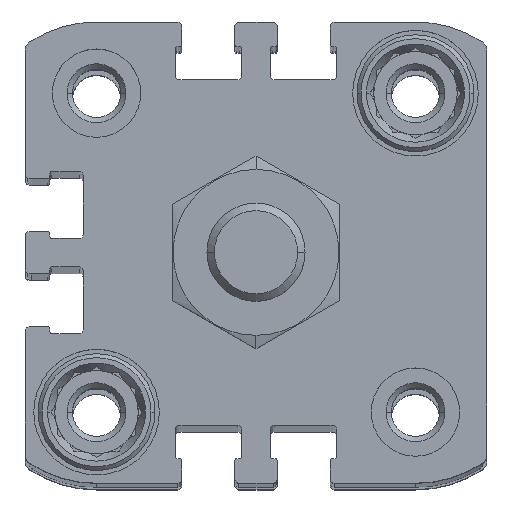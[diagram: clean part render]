
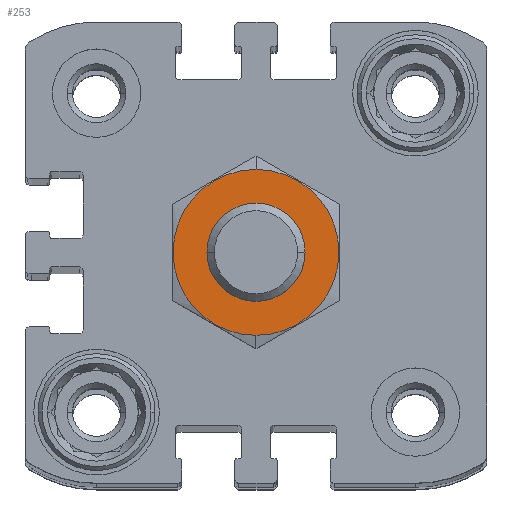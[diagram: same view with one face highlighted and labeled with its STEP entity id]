
A CAD part, top view. The second image highlights one B-rep face of the part: STEP entity #253.
In plain terms, the highlighted planar face has unit normal (0, 0, 1) as drawn and (0, 1, 0) by its records, which use the part's own axes.
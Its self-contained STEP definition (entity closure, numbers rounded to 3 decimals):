
#208 = DIRECTION ( 'NONE',  ( 0., 1., 0. ) ) ;
#221 = DIRECTION ( 'NONE',  ( 0., -1., 0. ) ) ;
#253 = ADVANCED_FACE ( 'NONE', ( #2506, #9247 ), #3930, .F. ) ;
#486 = ORIENTED_EDGE ( 'NONE', *, *, #1875, .F. ) ;
#538 = VERTEX_POINT ( 'NONE', #5395 ) ;
#608 = CARTESIAN_POINT ( 'NONE',  ( 0., 0., 0. ) ) ;
#1314 = VERTEX_POINT ( 'NONE', #15508 ) ;
#1531 = EDGE_LOOP ( 'NONE', ( #486, #5705 ) ) ;
#1756 = CARTESIAN_POINT ( 'NONE',  ( 0., 0., 0. ) ) ;
#1875 = EDGE_CURVE ( 'NONE', #7596, #1314, #12689, .T. ) ;
#2506 = FACE_BOUND ( 'NONE', #11129, .T. ) ;
#2579 = CIRCLE ( 'NONE', #14699, 8.45 ) ;
#2859 = CARTESIAN_POINT ( 'NONE',  ( 0., 0., 0. ) ) ;
#3033 = DIRECTION ( 'NONE',  ( 0., 0., -1. ) ) ;
#3135 = AXIS2_PLACEMENT_3D ( 'NONE', #7857, #208, #9137 ) ;
#3229 = CARTESIAN_POINT ( 'NONE',  ( 0., 0., -8.45 ) ) ;
#3486 = VERTEX_POINT ( 'NONE', #7382 ) ;
#3890 = AXIS2_PLACEMENT_3D ( 'NONE', #4691, #13443, #5934 ) ;
#3930 = PLANE ( 'NONE',  #4543 ) ;
#4132 = DIRECTION ( 'NONE',  ( 0., 0., 1. ) ) ;
#4543 = AXIS2_PLACEMENT_3D ( 'NONE', #608, #221, #6394 ) ;
#4691 = CARTESIAN_POINT ( 'NONE',  ( 0., 0., 0. ) ) ;
#5230 = AXIS2_PLACEMENT_3D ( 'NONE', #2859, #11705, #4132 ) ;
#5395 = CARTESIAN_POINT ( 'NONE',  ( 0., 0., -5. ) ) ;
#5705 = ORIENTED_EDGE ( 'NONE', *, *, #15880, .F. ) ;
#5934 = DIRECTION ( 'NONE',  ( 0., 0., -1. ) ) ;
#6394 = DIRECTION ( 'NONE',  ( 0., 0., -1. ) ) ;
#7382 = CARTESIAN_POINT ( 'NONE',  ( 0., 0., 5. ) ) ;
#7430 = EDGE_CURVE ( 'NONE', #3486, #538, #13195, .T. ) ;
#7596 = VERTEX_POINT ( 'NONE', #3229 ) ;
#7784 = CIRCLE ( 'NONE', #3135, 5. ) ;
#7857 = CARTESIAN_POINT ( 'NONE',  ( 0., 0., 0. ) ) ;
#9137 = DIRECTION ( 'NONE',  ( 0., 0., 1. ) ) ;
#9247 = FACE_OUTER_BOUND ( 'NONE', #1531, .T. ) ;
#10183 = ORIENTED_EDGE ( 'NONE', *, *, #14256, .F. ) ;
#10661 = DIRECTION ( 'NONE',  ( 0., -1., 0. ) ) ;
#11129 = EDGE_LOOP ( 'NONE', ( #13335, #10183 ) ) ;
#11705 = DIRECTION ( 'NONE',  ( 0., 1., 0. ) ) ;
#12689 = CIRCLE ( 'NONE', #3890, 8.45 ) ;
#13195 = CIRCLE ( 'NONE', #5230, 5. ) ;
#13335 = ORIENTED_EDGE ( 'NONE', *, *, #7430, .F. ) ;
#13443 = DIRECTION ( 'NONE',  ( 0., -1., 0. ) ) ;
#14256 = EDGE_CURVE ( 'NONE', #538, #3486, #7784, .T. ) ;
#14699 = AXIS2_PLACEMENT_3D ( 'NONE', #1756, #10661, #3033 ) ;
#15508 = CARTESIAN_POINT ( 'NONE',  ( 0., 0., 8.45 ) ) ;
#15880 = EDGE_CURVE ( 'NONE', #1314, #7596, #2579, .T. ) ;
